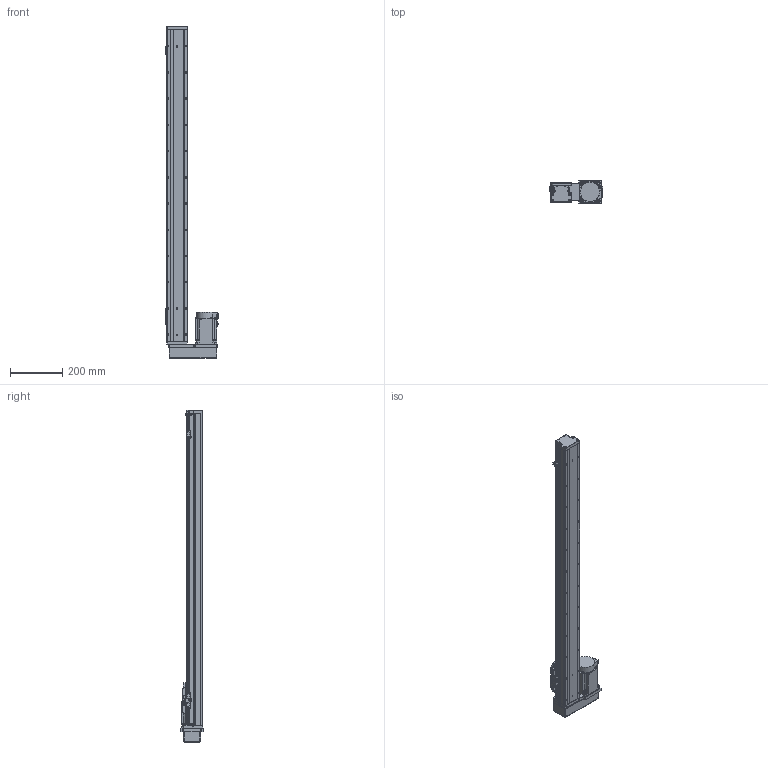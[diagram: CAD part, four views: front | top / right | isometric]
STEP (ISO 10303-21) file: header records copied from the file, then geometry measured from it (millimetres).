
FILE_DESCRIPTION (( 'STEP AP203' ), '1' );
FILE_NAME ('GTH8-1000-BR-M75-C4.step', '2023-02-14T02:32:05', ( '微软用户' ), ( '微软中国' ), 'SwSTEP 2.0', 'SolidWorks 2020', '' );
FILE_SCHEMA (( 'CONFIG_CONTROL_DESIGN' ));
Length unit declared in the file: millimetre
Products named in the file (18): CTHA86-035; GTH80-004; GTH80-028; hg-kn73j_-s100; GTH80-006; GTH50-024; GTH8-1000-BR-M75-C4; GTH80-013; GTH50-023; GBT 70.3-M3℅6; GBT96.1-2002 3×0.8; GTH80-022; BTH-M3X5X6; GTH80-001_1000; GBT 70.1-M3℅6; CTHA86-015-3_CTHA86-015-4; GTH80-003; GBT 70.1-M4×16
Assembly tree (57 placements, depth 2):
  GTH8-1000-BR-M75-C4
    GTH80-001_1000
    GTH80-003
    GTH80-004
    GTH80-006
    GTH80-013
    GBT 70.3-M3℅6  x4
    GTH80-022
    GBT 70.1-M3℅6  x14
    GBT 70.1-M4×16  x8
    GTH80-028  x2
    GTH50-024  x3
    GTH50-023  x3
    GBT96.1-2002 3×0.8  x6
    BTH-M3X5X6  x8
    CTHA86-015-3_CTHA86-015-4
    CTHA86-035
    hg-kn73j_-s100
Bounding box: 204.7 x 87 x 1266 mm (x, y, z)
Volume: 6696658.6 mm3; surface area: 639516.3 mm2
Topology: 59 solids, 59 shells, 2211 faces, 5142 edges, 3152 vertices
Faces by surface type: plane 1153, cylinder 643, cone 243, torus 158, sphere 12, bspline 2
Entity records: 40180 total; most frequent: CARTESIAN_POINT 6743, DIRECTION 6641, ORIENTED_EDGE 6094, EDGE_CURVE 3047, AXIS2_PLACEMENT_3D 2350, VECTOR 1941, LINE 1941, VERTEX_POINT 1927
